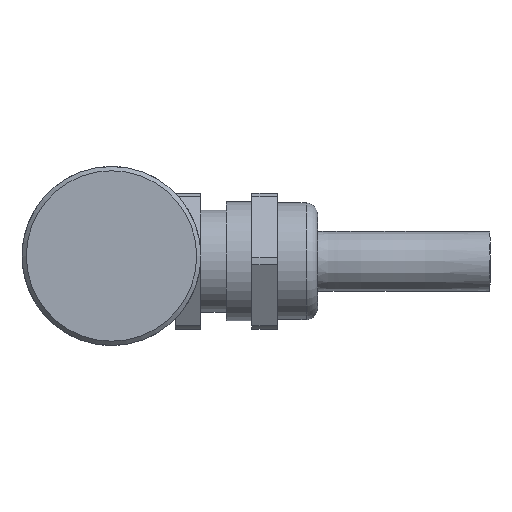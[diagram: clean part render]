
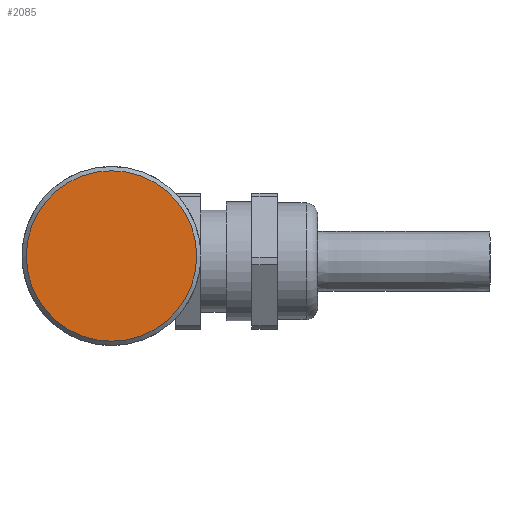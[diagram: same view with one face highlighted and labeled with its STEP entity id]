
A CAD part, left-side view. The second image highlights one B-rep face of the part: STEP entity #2085.
In plain terms, the highlighted planar face has unit normal (-1, 0, 0).
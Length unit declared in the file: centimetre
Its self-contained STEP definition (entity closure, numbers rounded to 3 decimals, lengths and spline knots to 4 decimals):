
#903=PLANE('',#2206);
#954=CIRCLE('',#2205,1.);
#1064=VERTEX_POINT('',#2685);
#1239=EDGE_CURVE('',#1064,#1064,#954,.T.);
#1488=ORIENTED_EDGE('',*,*,#1239,.T.);
#1853=EDGE_LOOP('',(#1488));
#1973=FACE_BOUND('',#1853,.T.);
#2085=ADVANCED_FACE('',(#1973),#903,.F.);
#2205=AXIS2_PLACEMENT_3D('',#2684,#3267,#3268);
#2206=AXIS2_PLACEMENT_3D('',#2686,#3269,$);
#2684=CARTESIAN_POINT('',(-3.4,0.,0.));
#2685=CARTESIAN_POINT('',(-3.4,0.,-1.));
#2686=CARTESIAN_POINT('',(-3.4,0.,0.));
#3267=DIRECTION('',(-1.,0.,0.));
#3268=DIRECTION('',(0.,0.,-1.));
#3269=DIRECTION('',(1.,0.,0.));
